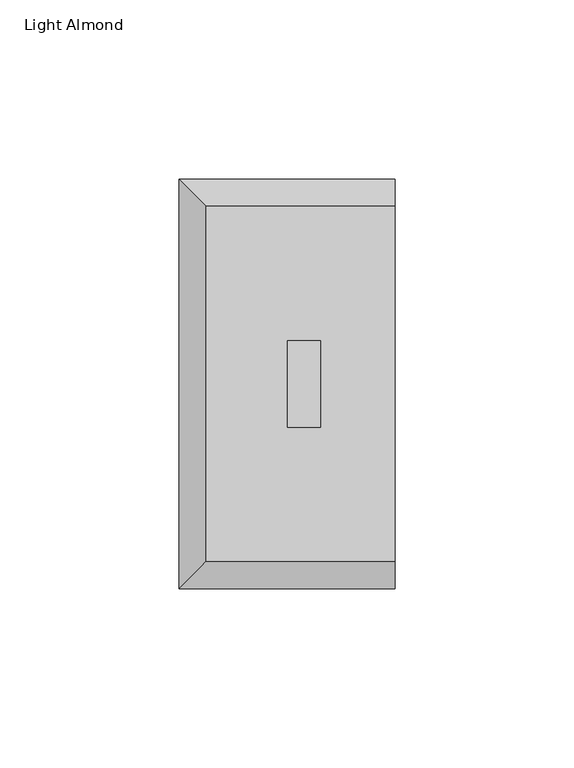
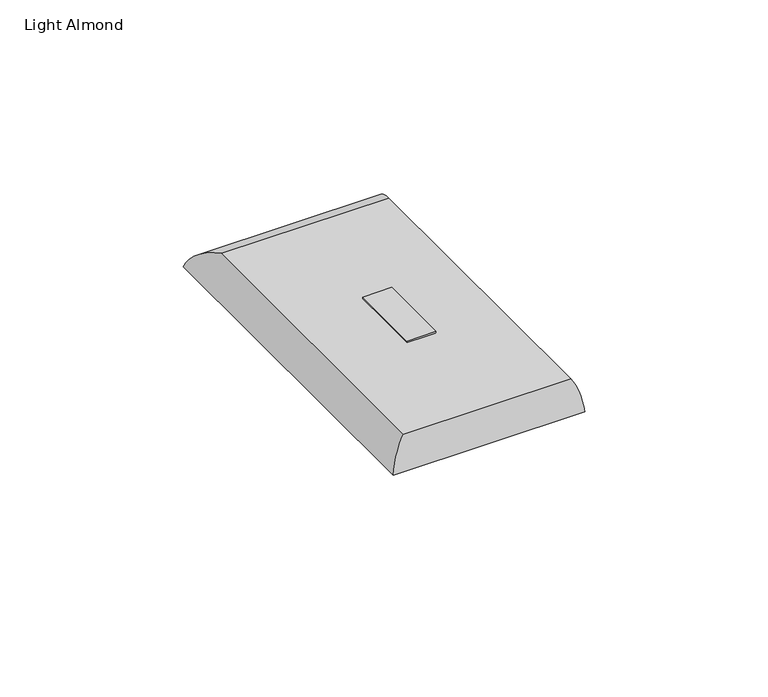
"""IFC4 building model written with IfcOpenShell, lengths in millimetres: proxy geometry, Switch-Wall-Pass_And_Seymour-Toggle : Light Almond."""

from ifc_helpers import new_model, si_unit, frame, origin, origin_with_axes, place, context, project, spatial, polyline, circle_curve, ellipse_curve, outline, extrude, source, transform, mapped, element, save
from ifc_brep_helpers import plane_surface, cylinder_surface, advanced_brep


def light_almond_a7d462e7(model_context):
    return source(origin(), model_context, "Body", "SolidModel", [
        extrude(outline(polyline([(4.572, 12.065), (4.572, -12.065), (-4.572, -12.065), (-4.572, 12.065), (4.572, 12.065)])), origin_with_axes(), (0.0, 0.0, 1.0), 6.604),
        advanced_brep(
        [(25.2984, -49.53, 6.35), (25.2984, 49.53, 6.35), (-27.305, 49.53, 6.35), (-27.305, -49.53, 6.35), (4.572, 12.065, 6.35), (4.572, -12.065, 6.35), (-4.572, -12.065, 6.35), (-4.572, 12.065, 6.35), (25.2984, 57.15, 0.0), (25.2984, -57.15, 0.0), (-34.925, -57.15, 0.0), (-34.925, 57.15, 0.0), (4.572, -12.065, 0.254), (4.572, 12.065, 0.254), (-4.572, 12.065, 0.254), (-4.572, -12.065, 0.254)],
        [
            (0, 1),
            (1, 2),
            (2, 3),
            (3, 0),
            (4, 5),
            (5, 6),
            (6, 7),
            (7, 4),
            (8, 9),
            (9, 10),
            (10, 11),
            (11, 8),
            (12, 13),
            (13, 14),
            (14, 15),
            (15, 12),
            (12, 5),
            (4, 13),
            (7, 14),
            (6, 15),
            (3, 10, ellipse_curve(frame((-27.305, -49.53, -1.397), z_axis=(0.7071067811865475, -0.7071067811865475, 0.0), x_axis=(-0.7071067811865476, -0.7071067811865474, 0.0)), 10.9559125, 7.747)),
            (9, 0, circle_curve(frame((25.2984, -49.53, -1.397), z_axis=(-1.0, 0.0, 0.0), x_axis=(0.0, -1.0, 0.0)), 7.747)),
            (2, 11, ellipse_curve(frame((-27.305, 49.53, -1.397), z_axis=(-0.7071067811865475, -0.7071067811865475, 0.0), x_axis=(-0.7071067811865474, 0.7071067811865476, 0.0)), 10.9559125, 7.747)),
            (1, 8, circle_curve(frame((25.2984, 49.53, -1.397), z_axis=(-1.0, 0.0, 0.0), x_axis=(0.0, 1.0, 0.0)), 7.747)),
        ],
        [
            plane_surface(frame((-34.925, 57.15, 6.35), z_axis=(0.0, 0.0, 1.0), x_axis=(-1.0, 0.0, 0.0))),
            plane_surface(frame((-34.925, 57.15, 0.0), z_axis=(0.0, 0.0, -1.0), x_axis=(1.0, 0.0, 0.0))),
            plane_surface(frame((4.572, -12.065, 0.254), z_axis=(0.0, 0.0, 1.0), x_axis=(-1.0, 0.0, 0.0))),
            plane_surface(frame((4.572, 12.065, 0.254), z_axis=(-1.0, 0.0, 0.0), x_axis=(0.0, 0.0, 1.0))),
            plane_surface(frame((-4.572, 12.065, 0.254), z_axis=(0.0, -1.0, 0.0), x_axis=(0.0, 0.0, 1.0))),
            plane_surface(frame((-4.572, -12.065, 0.254), z_axis=(1.0, 0.0, 0.0), x_axis=(0.0, 0.0, 1.0))),
            plane_surface(frame((4.572, -12.065, 0.254), z_axis=(0.0, 1.0, 0.0), x_axis=(0.0, 0.0, 1.0))),
            cylinder_surface(frame((34.925, -49.53, -1.397), z_axis=(-1.0, 0.0, 0.0), x_axis=(0.0, -1.0, 0.0)), 7.747),
            cylinder_surface(frame((-27.305, -57.15, -1.397), z_axis=(0.0, 1.0, 0.0), x_axis=(-1.0, 0.0, 0.0)), 7.747),
            cylinder_surface(frame((-34.925, 49.53, -1.397), z_axis=(1.0, 0.0, 0.0), x_axis=(0.0, 1.0, 0.0)), 7.747),
            plane_surface(frame((25.2984, 60.2234, 6.35), z_axis=(1.0, 0.0, 0.0), x_axis=(0.0, 0.0, -1.0))),
        ],
        [
            (0, [[1, 2, 3, 4], [5, 6, 7, 8]]),
            (1, [[9, 10, 11, 12]]),
            (2, [[13, 14, 15, 16]]),
            (3, [[-13, 17, -5, 18]]),
            (4, [[-14, -18, -8, 19]]),
            (5, [[-15, -19, -7, 20]]),
            (6, [[-16, -20, -6, -17]]),
            (7, [[21, -10, 22, -4]]),
            (8, [[-21, -3, 23, -11]]),
            (9, [[-23, -2, 24, -12]]),
            (10, [[-9, -24, -1, -22]]),
        ],
    ),
        extrude(outline(polyline([(21.844, 35.179), (21.844, -35.179), (-21.844, -35.179), (-21.844, 35.179), (21.844, 35.179)])), frame((0.0, 0.0, -12.7), z_axis=(0.0, 0.0, 1.0), x_axis=(1.0, 0.0, 0.0)), (0.0, 0.0, 1.0), 12.7),
    ])


if __name__ == "__main__":
    model = new_model("IFC4")
    model_context = context("Model", 3, world=origin())
    ifc_project = project(units=[si_unit("LENGTHUNIT", "METRE", prefix="MILLI")], contexts=[model_context])
    site = spatial("IfcSite", under=ifc_project)
    building = spatial("IfcBuilding", under=site)
    placement = place(None, origin())
    light_almond_shape = light_almond_a7d462e7(model_context)
    element("IfcBuildingElementProxy", 1, Name="Switch-Wall-Pass_And_Seymour-Toggle : Light Almond", ObjectType="Switch-Wall-Pass_And_Seymour-Toggle : Light Almond", at=placement, inside=building, context=model_context, shape_type="MappedRepresentation", body=[
        mapped(light_almond_shape, transform((0.0, 0.0, 0.0), x_axis=(1.0, 0.0, 0.0), y_axis=(0.0, 1.0, 0.0), z_axis=(0.0, 0.0, 1.0))),
    ])
    save(model, "model.ifc")
